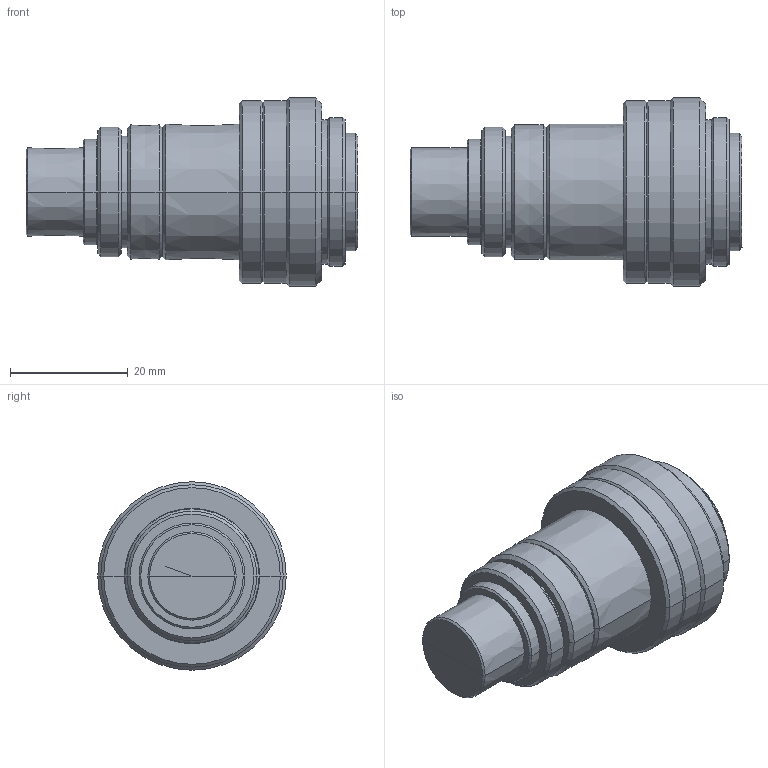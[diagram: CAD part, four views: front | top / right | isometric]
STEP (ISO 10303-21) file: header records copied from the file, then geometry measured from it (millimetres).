
FILE_DESCRIPTION (( 'STEP AP214' ), '1' );
FILE_NAME ('VS-MC024(承認前).STEP', '2019-07-12T07:52:17', ( '' ), ( '' ), 'SwSTEP 2.0', 'SolidWorks 2018', '' );
FILE_SCHEMA (( 'AUTOMOTIVE_DESIGN' ));
Length unit declared in the file: millimetre
Products named in the file (1): VS-MC024(承認前)
Bounding box: 56.4 x 32 x 32 mm (x, y, z)
Volume: 25379 mm3; surface area: 5826.6 mm2
Topology: 1 solids, 1 shells, 71 faces, 144 edges, 76 vertices
Faces by surface type: cone 58, cylinder 8, plane 5
Entity records: 1826 total; most frequent: DIRECTION 358, CARTESIAN_POINT 288, ORIENTED_EDGE 280, AXIS2_PLACEMENT_3D 146, EDGE_CURVE 140, VERTEX_POINT 76, EDGE_LOOP 76, CIRCLE 74
